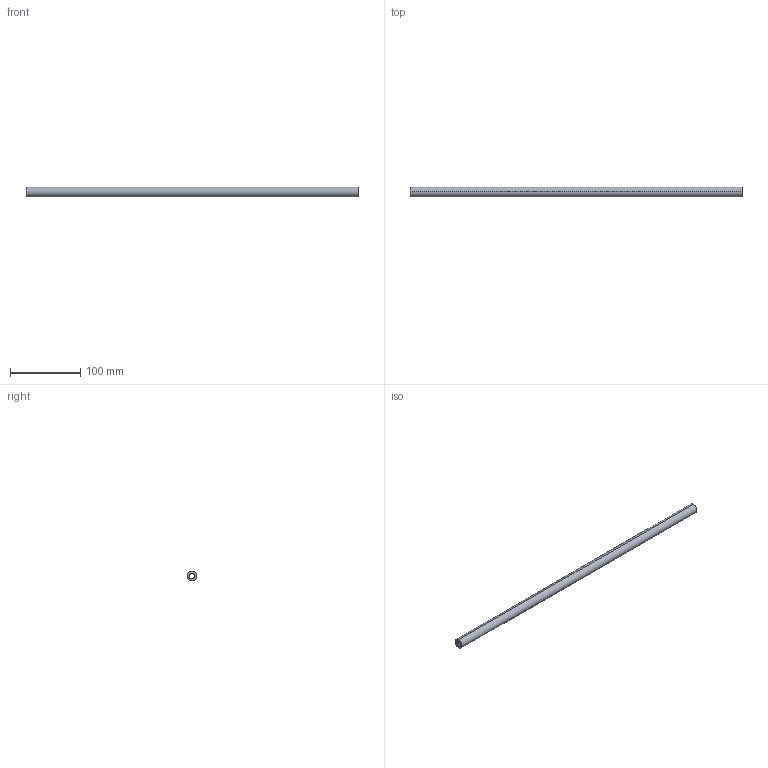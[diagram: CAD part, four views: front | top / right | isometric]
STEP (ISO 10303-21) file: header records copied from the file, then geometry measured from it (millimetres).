
FILE_DESCRIPTION (( 'STEP AP214' ), '1' );
FILE_NAME ('SyncronisationsstangeXP_KAB_600_16.step', '2009-11-24T08:53:23', ( 'Grass' ), ( 'Grass GmbH' ), 'SwSTEP 2.0', 'SolidWorks 2009', '' );
FILE_SCHEMA (( 'AUTOMOTIVE_DESIGN' ));
Length unit declared in the file: millimetre
Products named in the file (1): SyncronisationsstangeXP_KAB_600_16
Bounding box: 471 x 14 x 14 mm (x, y, z)
Volume: 50929.1 mm3; surface area: 32933.4 mm2
Topology: 1 solids, 1 shells, 15 faces, 39 edges, 26 vertices
Faces by surface type: cylinder 11, plane 4
Entity records: 513 total; most frequent: DIRECTION 93, CARTESIAN_POINT 81, ORIENTED_EDGE 78, EDGE_CURVE 39, AXIS2_PLACEMENT_3D 38, VERTEX_POINT 26, CIRCLE 22, VECTOR 17
